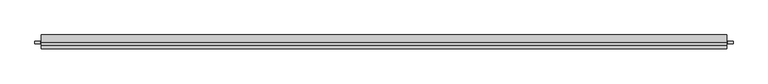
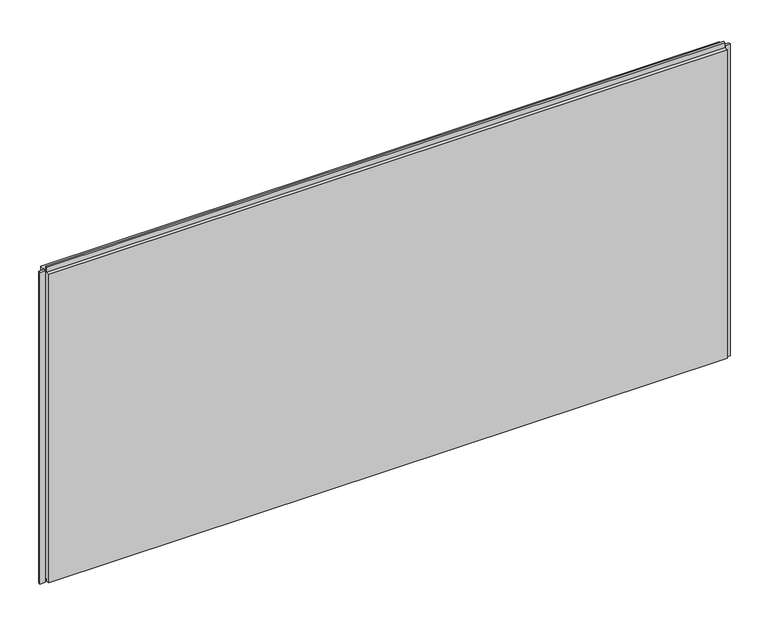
"""IFC4 building model written with IfcOpenShell, lengths in millimetres: plate geometry, Trimo_Qbiss Screen_Normal Panel-HORIZONTAL : HR - FB."""

from ifc_helpers import new_model, si_unit, frame, origin, place, context, project, spatial, polyline, outline, extrude, source, transform, mapped, element, save


def plate_e7c976e0(model_context):
    return source(origin(), model_context, "Body", "SweptSolid", [
        extrude(outline(polyline([(-1236.0, 76.5978162), (-1236.0, 67.8978162), (-1255.0, 67.8978162), (-1255.0, 76.5978162), (-1236.0, 76.5978162)])), frame((0.0, 0.0, -1.0), z_axis=(0.0, 0.0, 1.0), x_axis=(1.0, 0.0, 0.0)), (0.0, 0.0, 1.0), 1200.0),
        extrude(outline(polyline([(1240.5, 67.8978162), (1240.5, 76.5978162), (1259.5, 76.5978162), (1259.5, 67.8978162), (1240.5, 67.8978162)])), frame((0.0, 0.0, -1.0), z_axis=(0.0, 0.0, 1.0), x_axis=(1.0, 0.0, 0.0)), (0.0, 0.0, 1.0), 1200.0),
        extrude(outline(polyline([(71.0, 1196.0), (100.0, 1196.0), (100.0, 0.0), (72.0, 0.0), (72.0, 15.5), (62.0, 15.5), (62.0, 7.0), (50.0, 7.0), (50.0, 1196.0), (63.0, 1196.0), (63.0, 1214.5), (71.0, 1214.5), (71.0, 1196.0)])), frame((-1233.0, 0.0, 0.0), z_axis=(1.0, 0.0, 0.0), x_axis=(0.0, 1.0, 0.0)), (0.0, 0.0, 1.0), 2470.5),
    ])


if __name__ == "__main__":
    model = new_model("IFC4")
    model_context = context("Model", 3, world=origin())
    ifc_project = project(units=[si_unit("LENGTHUNIT", "METRE", prefix="MILLI")], contexts=[model_context])
    site = spatial("IfcSite", under=ifc_project)
    building = spatial("IfcBuilding", under=site)
    placement = place(None, origin())
    plate_shape = plate_e7c976e0(model_context)
    element("IfcPlate", 1, ObjectType="Trimo_Qbiss Screen_Normal Panel-HORIZONTAL : HR - FB", at=placement, inside=building, context=model_context, shape_type="MappedRepresentation", body=[
        mapped(plate_shape, transform((0.0, 0.0, 0.0), x_axis=(1.0, 0.0, 0.0), y_axis=(0.0, 1.0, 0.0), z_axis=(0.0, 0.0, 1.0))),
    ])
    save(model, "model.ifc")
